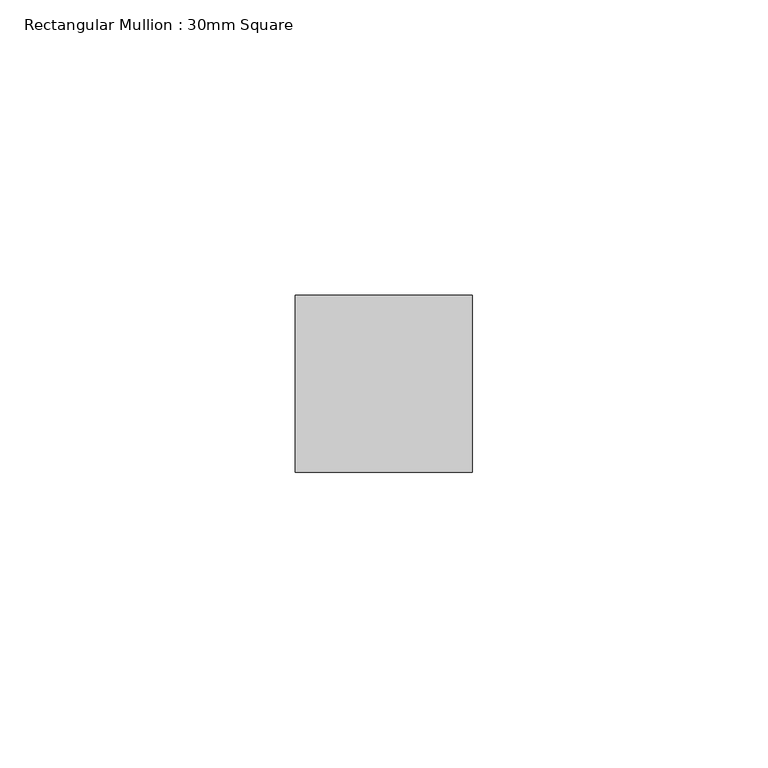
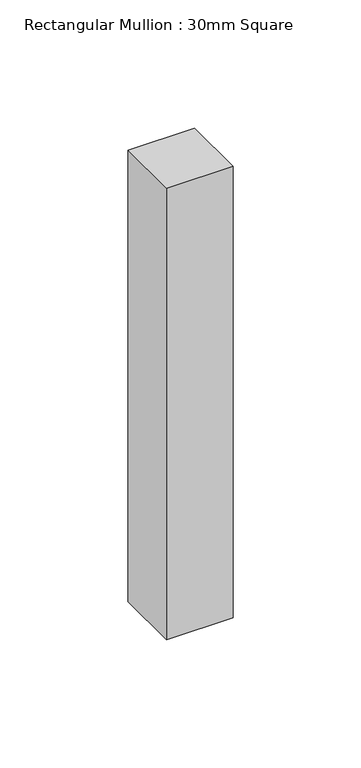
"""IFC4 building model written with IfcOpenShell, lengths in millimetres: member geometry, Rectangular Mullion : 30mm Square."""

import ifcopenshell
import ifcopenshell.guid

model = None  # the IFC model being written
_history = None  # IfcOwnerHistory: only IFC2X3 demands one
_inside = {}  # id of a spatial element -> (the spatial element, [elements in it])
_under = {}  # id of a project, library or spatial element -> (it, [spatial elements below it])
_declared = {}  # id of a project -> (the project, [libraries it declares])
_typed = {}  # id of a type object -> (the type object, [elements of that type])
_made_of = {}  # id of a material, layer set ... -> (it, [elements and type objects made of it])


def new_model(schema):
    """Start an empty IFC model of exactly this schema.

    Asked for "IFC4X3", IfcOpenShell would pick the latest addendum, in which some entities
    have other attributes; the version numbers below select the first issue.
    IFC2X3 requires an IfcOwnerHistory on every rooted entity: one is made here for all.
    """
    global model, _history
    if schema == "IFC4X3":
        model = ifcopenshell.file(schema_version=(4, 3, 0, 0))
    else:
        model = ifcopenshell.file(schema=schema)
    _inside.clear()
    _under.clear()
    _declared.clear()
    _typed.clear()
    _made_of.clear()
    _history = None
    if model.schema == "IFC2X3":
        org = make("IfcOrganization", Name="unknown")
        user = make(
            "IfcPersonAndOrganization",
            ThePerson=make("IfcPerson", FamilyName="unknown"),
            TheOrganization=org,
        )
        app = make(
            "IfcApplication",
            ApplicationDeveloper=org,
            Version="unknown",
            ApplicationFullName="unknown",
            ApplicationIdentifier="unknown",
        )
        _history = make(
            "IfcOwnerHistory",
            OwningUser=user,
            OwningApplication=app,
            ChangeAction="ADDED",
            CreationDate=0,
        )
    return model


def make(cls, **values):
    """One entity of the class cls with the attributes given. An attribute that is None is left unset."""
    return model.create_entity(
        cls, **{name: value for name, value in values.items() if value is not None}
    )


def rooted(cls, **values):
    """An entity with a GlobalId (a new one), such as an element, a storey or a relation."""
    return make(cls, GlobalId=ifcopenshell.guid.new(), OwnerHistory=_history, **values)


def si_unit(unit_type, name, prefix=None):
    """IfcSIUnit, for example si_unit("LENGTHUNIT", "METRE", prefix="MILLI")."""
    return make("IfcSIUnit", UnitType=unit_type, Prefix=prefix, Name=name)


def assignment(units):
    """IfcUnitAssignment: the units of a project."""
    return None if units is None else make("IfcUnitAssignment", Units=units)


def point(xyz):
    """IfcCartesianPoint."""
    return None if xyz is None else make("IfcCartesianPoint", Coordinates=xyz)


def direction(xyz):
    """IfcDirection."""
    return None if xyz is None else make("IfcDirection", DirectionRatios=xyz)


def frame(location, z_axis=None, x_axis=None):
    """IfcAxis2Placement3D, a coordinate frame: its origin and axes. An axis left out is left unset."""
    return make(
        "IfcAxis2Placement3D",
        Location=point(location),
        Axis=direction(z_axis),
        RefDirection=direction(x_axis),
    )


def origin():
    """The frame at (0, 0, 0) with its axes left unset."""
    return frame((0.0, 0.0, 0.0))


def place(relative_to, where):
    """IfcLocalPlacement: puts the frame where relative to a parent placement (None: the world)."""
    return make(
        "IfcLocalPlacement", PlacementRelTo=relative_to, RelativePlacement=where
    )


def context(
    kind, dimensions, precision=None, world=None, true_north=None, identifier=None
):
    """IfcGeometricRepresentationContext, for example the 3D "Model" context."""
    return make(
        "IfcGeometricRepresentationContext",
        ContextIdentifier=identifier,
        ContextType=kind,
        CoordinateSpaceDimension=dimensions,
        Precision=precision,
        WorldCoordinateSystem=world,
        TrueNorth=true_north,
    )


def project(units=None, contexts=None):
    """IfcProject with its units and contexts."""
    return rooted(
        "IfcProject",
        Name="project",
        RepresentationContexts=contexts,
        UnitsInContext=assignment(units),
    )


def spatial(cls, under=None, at=None, **own):
    """A site, building, storey or space (cls), placed at a placement, below another one or the project."""
    s = rooted(cls, ObjectPlacement=at, **own)
    if under is not None:
        _under.setdefault(under.id(), (under, []))[1].append(s)
    return s


def polyline(points):
    """IfcPolyline through the points."""
    return make("IfcPolyline", Points=[point(p) for p in points])


def outline(outer, holes=None, kind="AREA"):
    """IfcArbitraryClosedProfileDef: a profile drawn as a closed curve; with holes, ...WithVoids."""
    if holes is None:
        return make("IfcArbitraryClosedProfileDef", ProfileType=kind, OuterCurve=outer)
    return make(
        "IfcArbitraryProfileDefWithVoids",
        ProfileType=kind,
        OuterCurve=outer,
        InnerCurves=holes,
    )


def extrude(swept, where, along, depth):
    """IfcExtrudedAreaSolid: the profile swept, set in the frame where, extruded along a direction by depth."""
    return make(
        "IfcExtrudedAreaSolid",
        SweptArea=swept,
        Position=where,
        ExtrudedDirection=direction(along),
        Depth=depth,
    )


def shape(context_of_items, identifier, shape_type, items):
    """IfcShapeRepresentation: the items that make up one representation, for example the "Body"."""
    return make(
        "IfcShapeRepresentation",
        ContextOfItems=context_of_items,
        RepresentationIdentifier=identifier,
        RepresentationType=shape_type,
        Items=items,
    )


def source(mapping_origin, context_of_items, identifier, shape_type, items):
    """IfcRepresentationMap: a shape defined once, which mapped items show again and again."""
    return make(
        "IfcRepresentationMap",
        MappingOrigin=mapping_origin,
        MappedRepresentation=shape(context_of_items, identifier, shape_type, items),
    )


def transform(
    local_origin,
    x_axis=None,
    y_axis=None,
    z_axis=None,
    scale=None,
    scale2=None,
    scale3=None,
    uniform=True,
):
    """IfcCartesianTransformationOperator3D, or its non-uniform kind. x_axis, y_axis, z_axis: its Axis1, 2, 3."""
    if uniform:
        return make(
            "IfcCartesianTransformationOperator3D",
            Axis1=direction(x_axis),
            Axis2=direction(y_axis),
            LocalOrigin=point(local_origin),
            Scale=scale,
            Axis3=direction(z_axis),
        )
    return make(
        "IfcCartesianTransformationOperator3DnonUniform",
        Axis1=direction(x_axis),
        Axis2=direction(y_axis),
        LocalOrigin=point(local_origin),
        Scale=scale,
        Axis3=direction(z_axis),
        Scale2=scale2,
        Scale3=scale3,
    )


def mapped(mapping_source, mapping_target):
    """IfcMappedItem: shows the shape of a source again, moved by a transform."""
    return make(
        "IfcMappedItem", MappingSource=mapping_source, MappingTarget=mapping_target
    )


def made_of(thing, what):
    """Note that an element or type object is made of a material, layer set ...; save() writes the relation."""
    if what is not None:
        _made_of.setdefault(what.id(), (what, []))[1].append(thing)
    return thing


def element(
    cls,
    number,
    at=None,
    inside=None,
    cuts=None,
    type_object=None,
    material=None,
    context=None,
    identifier="Body",
    shape_type=None,
    held_by="IfcProductDefinitionShape",
    body=None,
    shapes=None,
    **own,
):
    """One element of the class cls, such as IfcWall. Its Tag is "e" and its number.

    at: its placement. inside: the storey or other place that contains it. cuts: it is an
    opening in that element (IfcRelVoidsElement). A single representation is given by context,
    identifier, shape_type and body (its items); several are given by shapes. held_by: the class
    of the entity that holds the representations. save() writes the other relations.
    """
    e = rooted(cls, Tag="e%d" % number, ObjectPlacement=at, **own)
    if body is not None:
        shapes = [shape(context, identifier, shape_type, body)]
    if shapes is not None:
        e.Representation = make(held_by, Representations=shapes)
    if inside is not None:
        _inside.setdefault(inside.id(), (inside, []))[1].append(e)
    if cuts is not None:
        rooted(
            "IfcRelVoidsElement", RelatingBuildingElement=cuts, RelatedOpeningElement=e
        )
    if type_object is not None:
        _typed.setdefault(type_object.id(), (type_object, []))[1].append(e)
    return made_of(e, material)


def aggregate(whole, parts):
    """IfcRelAggregates: a whole, such as a stair, and the parts it consists of."""
    return rooted("IfcRelAggregates", RelatingObject=whole, RelatedObjects=parts)


def save(model, path):
    """Write the relations noted so far, then the file.

    IfcRelAggregates (storeys below a building ...), IfcRelContainedInSpatialStructure (elements
    in a storey), IfcRelDefinesByType, IfcRelAssociatesMaterial and IfcRelDeclares: one each for
    every whole, place, type object, material and project.
    """
    for whole, parts in _under.values():
        aggregate(whole, parts)
    for where, things in _inside.values():
        rooted(
            "IfcRelContainedInSpatialStructure",
            RelatedElements=things,
            RelatingStructure=where,
        )
    for kind, things in _typed.values():
        rooted("IfcRelDefinesByType", RelatedObjects=things, RelatingType=kind)
    for what, things in _made_of.values():
        rooted("IfcRelAssociatesMaterial", RelatedObjects=things, RelatingMaterial=what)
    for by, libraries in _declared.values():
        rooted("IfcRelDeclares", RelatingContext=by, RelatedDefinitions=libraries)
    model.write(path)


def rectangular_mullion_30mm_square_226b4b8b(model_context):
    return source(origin(), model_context, "Body", "SweptSolid", [
        extrude(outline(polyline([(15.0, 15.0), (15.0, -15.0), (-15.0, -15.0), (-15.0, 15.0), (15.0, 15.0)])), frame((0.0, 0.0, -215.0), z_axis=(0.0, 0.0, 1.0), x_axis=(1.0, 0.0, 0.0)), (0.0, 0.0, 1.0), 215.0),
    ])


if __name__ == "__main__":
    model = new_model("IFC4")
    model_context = context("Model", 3, world=origin())
    ifc_project = project(units=[si_unit("LENGTHUNIT", "METRE", prefix="MILLI")], contexts=[model_context])
    site = spatial("IfcSite", under=ifc_project)
    building = spatial("IfcBuilding", under=site)
    placement = place(None, origin())
    rectangular_mullion_30mm_square_shape = rectangular_mullion_30mm_square_226b4b8b(model_context)
    element("IfcMember", 1, ObjectType="Rectangular Mullion : 30mm Square", at=placement, inside=building, context=model_context, shape_type="MappedRepresentation", body=[
        mapped(rectangular_mullion_30mm_square_shape, transform((0.0, 0.0, 0.0), x_axis=(1.0, 0.0, 0.0), y_axis=(0.0, 1.0, 0.0), z_axis=(0.0, 0.0, 1.0))),
    ])
    save(model, "model.ifc")
